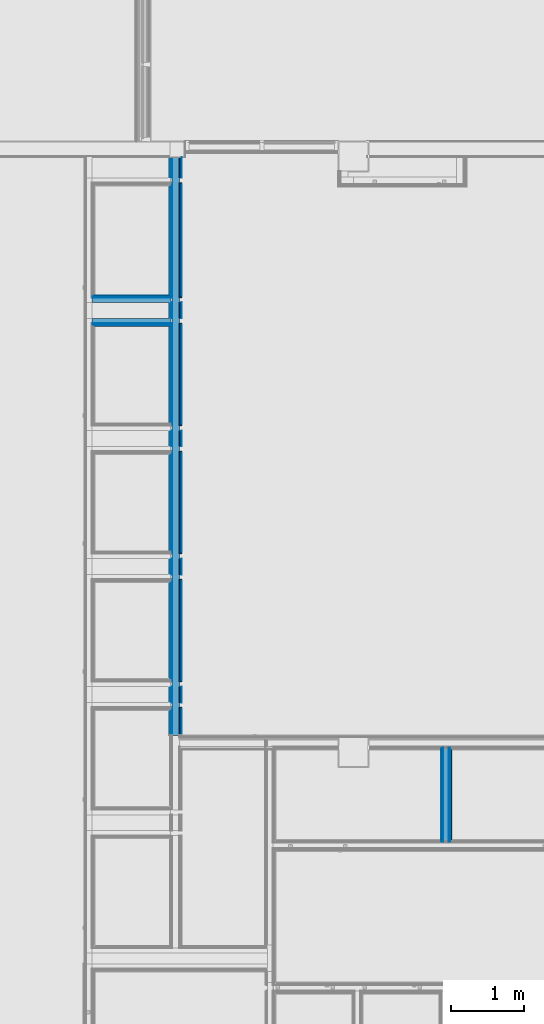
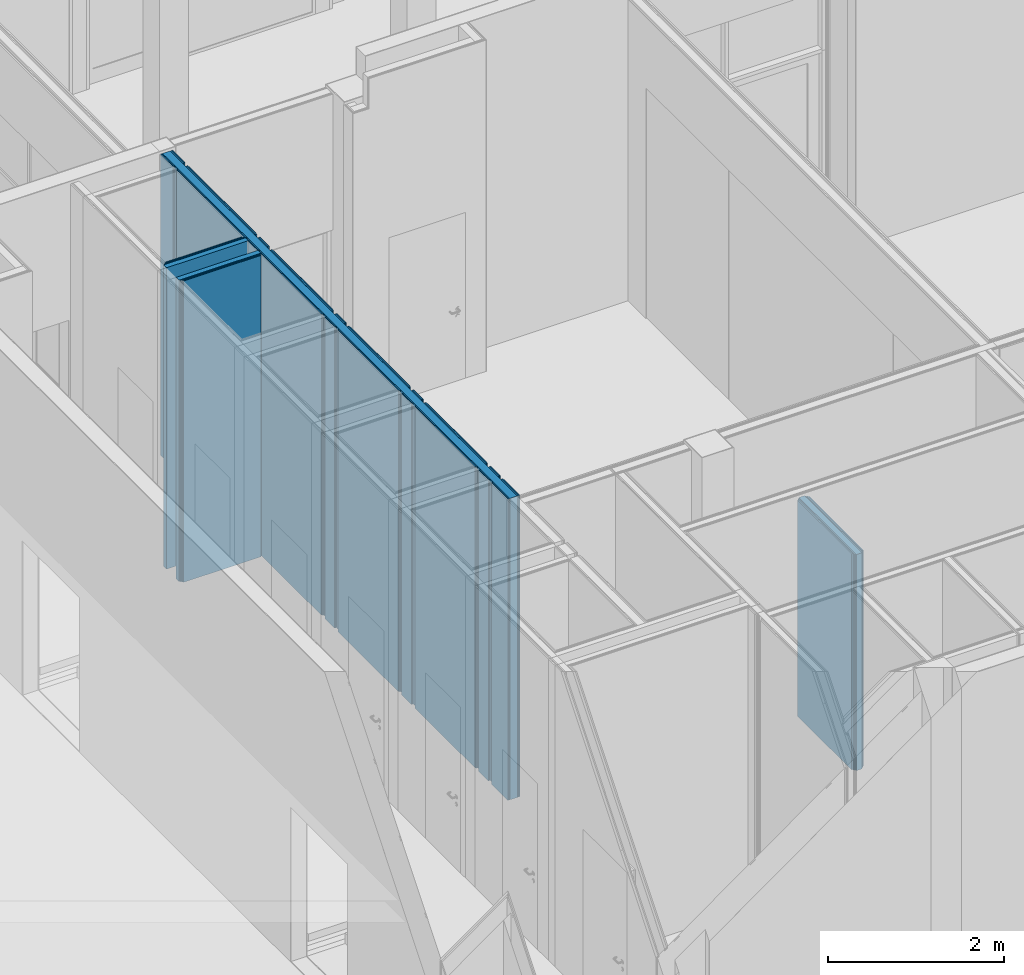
# One storey, part 207 of 260: 21 building element parts, 4 elements without a shape of their own.
"""IFC2X3 building model written with IfcOpenShell, lengths in millimetres."""

from ifc_helpers import new_model, entity, si_unit, converted_unit, derived_unit, money_unit, direction, frame, origin_with_axes, place, context, subcontext, project, spatial, faceted_brep, material, type_object, element, aggregate, save


model = new_model("IFC2X3")

# Units and contexts
model_context = context("Model", 3, precision=0.01, world=origin_with_axes(), true_north=direction((0.0, 1.0)))
body_context = subcontext(model_context, "Body", "Model", "MODEL_VIEW")
ifc_project = project(units=[si_unit("LENGTHUNIT", "METRE", prefix="MILLI"), si_unit("AREAUNIT", "SQUARE_METRE"), si_unit("VOLUMEUNIT", "CUBIC_METRE"), converted_unit("PLANEANGLEUNIT", "DEGREE", entity("IfcPlaneAngleMeasure", 0.0174532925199), si_unit("PLANEANGLEUNIT", "RADIAN"), dimensions=[0, 0, 0, 0, 0, 0, 0]), money_unit("EUR"), converted_unit("TIMEUNIT", "Year", entity("IfcTimeMeasure", 31556926.0), si_unit("TIMEUNIT", "SECOND"), dimensions=[0, 0, 1, 0, 0, 0, 0]), si_unit("MASSUNIT", "GRAM", prefix="KILO"), si_unit("THERMODYNAMICTEMPERATUREUNIT", "DEGREE_CELSIUS"), si_unit("LUMINOUSINTENSITYUNIT", "LUMEN"), si_unit("ENERGYUNIT", "JOULE", prefix="MEGA"), derived_unit("THERMALCONDUCTANCEUNIT", [(si_unit("POWERUNIT", "WATT"), 1), (si_unit("LENGTHUNIT", "METRE"), -1), (si_unit("THERMODYNAMICTEMPERATUREUNIT", "KELVIN"), -1)]), derived_unit("SPECIFICHEATCAPACITYUNIT", [(si_unit("ENERGYUNIT", "JOULE"), 1), (si_unit("MASSUNIT", "GRAM", prefix="KILO"), -1), (si_unit("THERMODYNAMICTEMPERATUREUNIT", "KELVIN"), -1)]), derived_unit("MASSDENSITYUNIT", [(si_unit("MASSUNIT", "GRAM", prefix="KILO"), 1), (si_unit("VOLUMEUNIT", "CUBIC_METRE"), -1)])], contexts=[model_context])

# Site, building, storey
site_placement = place(None, origin_with_axes())
site = spatial("IfcSite", under=ifc_project, at=site_placement, Name="Kolde pst 67a", CompositionType="ELEMENT")
building_placement = place(site_placement, origin_with_axes())
building = spatial("IfcBuilding", under=site, at=building_placement, Name="Riigigümnaasium", CompositionType="ELEMENT")
storey_placement = place(building_placement, origin_with_axes())
storey = spatial("IfcBuildingStorey", under=building, at=storey_placement, Name="1. korrus", CompositionType="ELEMENT", Elevation=0.0)

# Wall, building element parts
wall_type_1 = type_object("IfcWallType", Name="SS-MK-66/3_šahti sein+plaat 106", PredefinedType="NOTDEFINED")
wall_1_placement = place(storey_placement, frame((67450.8866155, 22349.9999727, 0.0), z_axis=(0.0, 0.0, 1.0), x_axis=(-1.0, 0.0, 0.0)))
wall_1 = element("IfcWall", 1, at=wall_1_placement, inside=storey, type_object=wall_type_1, Name="Sisesein")
ifc_material_1 = material(Name="_KARKASS - metallkarkass CW 75/50, mineraalvill karkassi vahel")
building_element_part_1_placement = place(wall_1_placement, origin_with_axes())
building_element_part_1 = element("IfcBuildingElementPart", 2, at=building_element_part_1_placement, material=ifc_material_1, Name="_KARKASS - metallkarkass CW 75/50, mineraalvill karkassi vahel", context=body_context, shape_type="Brep", body=[
    faceted_brep([(1074.99908005, 40.0, 4185.0), (0.0, 40.0, 4185.0), (0.0, 40.0, 0.0), (1074.99908005, 40.0, 0.0), (0.0, 106.0, 4185.0), (1074.99908005, 106.0, 4185.0), (0.0, 106.0, 0.0), (1074.99908005, 106.0, 0.0)], [[[0, 1, 2, 3]], [[4, 1, 0, 5]], [[1, 4, 6, 2]], [[7, 3, 2, 6]], [[5, 0, 3, 7]], [[4, 5, 7, 6]]]),
])
ifc_material_2 = material(Name="_PLAATMATERJAL - kipsplaat veekindel")
building_element_part_2_placement = place(wall_1_placement, origin_with_axes())
building_element_part_2 = element("IfcBuildingElementPart", 3, at=building_element_part_2_placement, material=ifc_material_2, Name="_PLAATMATERJAL - kipsplaat veekindel", context=body_context, shape_type="Brep", body=[
    faceted_brep([(1062.49908005, 27.5, 4185.0), (0.0, 27.5, 4185.0), (0.0, 27.5, 0.0), (1062.49908005, 27.5, 0.0), (0.0, 40.0, 4185.0), (1062.49908005, 40.0, 4185.0), (0.0, 40.0, 0.0), (1062.49908005, 40.0, 0.0)], [[[0, 1, 2, 3]], [[4, 1, 0, 5]], [[1, 4, 6, 2]], [[7, 3, 2, 6]], [[5, 0, 3, 7]], [[4, 5, 7, 6]]]),
])
building_element_part_3_placement = place(wall_1_placement, origin_with_axes())
building_element_part_3 = element("IfcBuildingElementPart", 4, at=building_element_part_3_placement, material=ifc_material_2, Name="_PLAATMATERJAL - kipsplaat veekindel", context=body_context, shape_type="Brep", body=[
    faceted_brep([(1049.99908005, 15.0, 4185.0), (4.9998261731, 15.0, 4185.0), (4.9998261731, 15.0, 0.0), (1049.99908005, 15.0, 0.0), (4.99983366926, 27.5, 4185.0), (1049.99908005, 27.5, 4185.0), (4.99983366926, 27.5, 0.0), (1049.99908005, 27.5, 0.0)], [[[0, 1, 2, 3]], [[4, 1, 0, 5]], [[1, 4, 6, 2]], [[3, 2, 6, 7]], [[5, 0, 3, 7]], [[4, 5, 7, 6]]]),
])
ifc_material_3 = material(Name="_VIIMISTLUSKIHT - viimistlus vastavalt SA osale")
building_element_part_4_placement = place(wall_1_placement, origin_with_axes())
building_element_part_4 = element("IfcBuildingElementPart", 5, at=building_element_part_4_placement, material=ifc_material_3, Name="_VIIMISTLUSKIHT - viimistlus vastavalt SA osale", context=body_context, shape_type="Brep", body=[
    faceted_brep([(1034.99908005, 0.0, 4185.0), (19.9998171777, 0.0, 4185.0), (19.9998171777, 0.0, 0.0), (1034.99908005, 0.0, 0.0), (19.9998261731, 15.0, 4185.0), (1034.99908005, 15.0, 4185.0), (19.9998261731, 15.0, 0.0), (1034.99908005, 15.0, 0.0)], [[[0, 1, 2, 3]], [[4, 1, 0, 5]], [[1, 4, 6, 2]], [[3, 2, 6, 7]], [[5, 0, 3, 7]], [[4, 5, 7, 6]]]),
])
aggregate(wall_1, [building_element_part_1, building_element_part_2, building_element_part_3, building_element_part_4])

wall_2_placement = place(storey_placement, frame((67450.8863577, 21920.0776322, 0.0), z_axis=(0.0, 0.0, 1.0), x_axis=(-1.0, -7.27337345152e-07, 0.0)))
wall_2 = element("IfcWall", 6, at=wall_2_placement, inside=storey, type_object=wall_type_1, Name="Varisein")
building_element_part_5_placement = place(wall_2_placement, origin_with_axes())
building_element_part_5 = element("IfcBuildingElementPart", 7, at=building_element_part_5_placement, material=ifc_material_3, Name="_VIIMISTLUSKIHT - viimistlus vastavalt SA osale", context=body_context, shape_type="Brep", body=[
    faceted_brep([(1034.99881132, -15.0, 4185.0), (19.9997972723, -15.0, 4185.0), (19.9997972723, -15.0, 0.0), (1034.99881132, -15.0, 0.0), (19.9998171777, 0.0, 4185.0), (1034.99882223, 0.0, 4185.0), (19.9998171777, 0.0, 0.0), (1034.99882223, 0.0, 0.0)], [[[0, 1, 2, 3]], [[4, 1, 0, 5]], [[1, 4, 6, 2]], [[3, 2, 6, 7]], [[5, 0, 3, 7]], [[4, 5, 7, 6]]]),
])
building_element_part_6_placement = place(wall_2_placement, origin_with_axes())
building_element_part_6 = element("IfcBuildingElementPart", 8, at=building_element_part_6_placement, material=ifc_material_2, Name="_PLAATMATERJAL - kipsplaat veekindel", context=body_context, shape_type="Brep", body=[
    faceted_brep([(1049.99880223, -27.5, 4185.0), (4.99978068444, -27.5, 4185.0), (4.99978068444, -27.5, 0.0), (1049.99880223, -27.5, 0.0), (4.9997972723, -15.0, 4185.0), (1049.99881132, -15.0, 4185.0), (4.9997972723, -15.0, 0.0), (1049.99881132, -15.0, 0.0)], [[[0, 1, 2, 3]], [[4, 1, 0, 5]], [[1, 4, 6, 2]], [[3, 2, 6, 7]], [[5, 0, 3, 7]], [[4, 5, 7, 6]]]),
])
building_element_part_7_placement = place(wall_2_placement, origin_with_axes())
building_element_part_7 = element("IfcBuildingElementPart", 9, at=building_element_part_7_placement, material=ifc_material_2, Name="_PLAATMATERJAL - kipsplaat veekindel", context=body_context, shape_type="Brep", body=[
    faceted_brep([(1062.49879313, -40.0, 4185.0), (0.0, -40.0, 4185.0), (0.0, -40.0, 0.0), (1062.49879313, -40.0, 0.0), (0.0, -27.5, 4185.0), (1062.49880223, -27.5, 4185.0), (0.0, -27.5, 0.0), (1062.49880223, -27.5, 0.0)], [[[0, 1, 2, 3]], [[4, 1, 0, 5]], [[1, 4, 6, 2]], [[7, 3, 2, 6]], [[5, 0, 3, 7]], [[4, 5, 7, 6]]]),
])
building_element_part_8_placement = place(wall_2_placement, origin_with_axes())
building_element_part_8 = element("IfcBuildingElementPart", 10, at=building_element_part_8_placement, material=ifc_material_1, Name="_KARKASS - metallkarkass CW 75/50, mineraalvill karkassi vahel", context=body_context, shape_type="Brep", body=[
    faceted_brep([(1074.99874513, -106.0, 4185.0), (0.0, -106.0, 4185.0), (0.0, -106.0, 0.0), (1074.99874513, -106.0, 0.0), (0.0, -40.0, 4185.0), (1074.99879313, -40.0, 4185.0), (0.0, -40.0, 0.0), (1074.99879313, -40.0, 0.0)], [[[0, 1, 2, 3]], [[4, 1, 0, 5]], [[1, 4, 6, 2]], [[7, 3, 2, 6]], [[5, 0, 3, 7]], [[4, 5, 7, 6]]]),
])
aggregate(wall_2, [building_element_part_5, building_element_part_6, building_element_part_7, building_element_part_8])

wall_type_2 = type_object("IfcWallType", Name="SS-MK-7,5/1_plaaditud 155", PredefinedType="NOTDEFINED")
wall_3_placement = place(storey_placement, frame((71289.9996248, 16259.0098036, 0.0), z_axis=(0.0, 0.0, 1.0), x_axis=(-4.76274528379e-07, -1.0, 0.0)))
wall_3 = element("IfcWall", 11, at=wall_3_placement, inside=storey, type_object=wall_type_2, Name="Sisesein")
building_element_part_9_placement = place(wall_3_placement, origin_with_axes())
building_element_part_9 = element("IfcBuildingElementPart", 12, at=building_element_part_9_placement, material=ifc_material_3, Name="_VIIMISTLUSKIHT - viimistlus vastavalt SA osale", context=body_context, shape_type="Brep", body=[
    faceted_brep([(1359.00163611, 0.0, 3000.0), (129.0013794, 0.0, 3000.0), (129.001375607, -15.0, 3000.0), (1359.00163611, -15.0, 3000.0), (1359.00163611, 0.0, 0.0), (129.0013794, 0.0, 0.0), (129.001375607, -15.0, 0.0), (1359.00163611, -15.0, 0.0)], [[[0, 1, 2, 3]], [[4, 5, 1, 0]], [[2, 1, 5, 6]], [[3, 2, 6, 7]], [[3, 7, 4, 0]], [[7, 6, 5, 4]]]),
])
building_element_part_10_placement = place(wall_3_placement, origin_with_axes())
building_element_part_10 = element("IfcBuildingElementPart", 13, at=building_element_part_10_placement, material=ifc_material_2, Name="_PLAATMATERJAL - kipsplaat veekindel", context=body_context, shape_type="Brep", body=[
    faceted_brep([(1374.00163611, -15.0, 3000.0), (114.001375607, -15.0, 3000.0), (114.001372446, -27.5, 3000.0), (1374.00163611, -27.5, 3000.0), (1374.00163611, -15.0, 0.0), (114.001375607, -15.0, 0.0), (114.001372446, -27.5, 0.0), (1374.00163611, -27.5, 0.0)], [[[0, 1, 2, 3]], [[4, 5, 1, 0]], [[2, 1, 5, 6]], [[3, 2, 6, 7]], [[3, 7, 4, 0]], [[7, 6, 5, 4]]]),
])
building_element_part_11_placement = place(wall_3_placement, origin_with_axes())
building_element_part_11 = element("IfcBuildingElementPart", 14, at=building_element_part_11_placement, material=ifc_material_2, Name="_PLAATMATERJAL - kipsplaat veekindel", context=body_context, shape_type="Brep", body=[
    faceted_brep([(1386.50163611, -27.5, 3000.0), (101.501372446, -27.5, 3000.0), (101.501369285, -40.0, 3000.0), (1386.50163611, -40.0, 3000.0), (1386.50163611, -27.5, 0.0), (101.501372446, -27.5, 0.0), (101.501369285, -40.0, 0.0), (1386.50163611, -40.0, 0.0)], [[[0, 1, 2, 3]], [[4, 5, 1, 0]], [[2, 1, 5, 6]], [[3, 2, 6, 7]], [[3, 7, 4, 0]], [[7, 6, 5, 4]]]),
])
building_element_part_12_placement = place(wall_3_placement, origin_with_axes())
building_element_part_12 = element("IfcBuildingElementPart", 15, at=building_element_part_12_placement, material=ifc_material_1, Name="_KARKASS - metallkarkass CW 75/50, mineraalvill karkassi vahel", context=body_context, shape_type="Brep", body=[
    faceted_brep([(1399.00163611, -40.0, 3000.0), (89.0013692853, -40.0, 3000.0), (89.0013503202, -115.0, 3000.0), (1399.00163611, -115.0, 3000.0), (1399.00163611, -40.0, 0.0), (89.0013692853, -40.0, 0.0), (89.0013503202, -115.0, 0.0), (1399.00163611, -115.0, 0.0)], [[[0, 1, 2, 3]], [[4, 5, 1, 0]], [[2, 1, 5, 6]], [[3, 2, 6, 7]], [[3, 7, 4, 0]], [[7, 6, 5, 4]]]),
])
building_element_part_13_placement = place(wall_3_placement, origin_with_axes())
building_element_part_13 = element("IfcBuildingElementPart", 16, at=building_element_part_13_placement, material=ifc_material_2, Name="_PLAATMATERJAL - kipsplaat veekindel", context=body_context, shape_type="Brep", body=[
    faceted_brep([(1386.50163611, -115.0, 3000.0), (101.50135032, -115.0, 3000.0), (101.501347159, -127.5, 3000.0), (1386.50163611, -127.5, 3000.0), (1386.50163611, -115.0, 0.0), (101.50135032, -115.0, 0.0), (101.501347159, -127.5, 0.0), (1386.50163611, -127.5, 0.0)], [[[0, 1, 2, 3]], [[4, 5, 1, 0]], [[2, 1, 5, 6]], [[3, 2, 6, 7]], [[3, 7, 4, 0]], [[7, 6, 5, 4]]]),
])
building_element_part_14_placement = place(wall_3_placement, origin_with_axes())
building_element_part_14 = element("IfcBuildingElementPart", 17, at=building_element_part_14_placement, material=ifc_material_2, Name="_PLAATMATERJAL - kipsplaat veekindel", context=body_context, shape_type="Brep", body=[
    faceted_brep([(1374.00163611, -127.5, 3000.0), (114.001347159, -127.5, 3000.0), (114.001343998, -140.0, 3000.0), (1374.00163611, -140.0, 3000.0), (1374.00163611, -127.5, 0.0), (114.001347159, -127.5, 0.0), (114.001343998, -140.0, 0.0), (1374.00163611, -140.0, 0.0)], [[[0, 1, 2, 3]], [[4, 5, 1, 0]], [[2, 1, 5, 6]], [[3, 2, 6, 7]], [[3, 7, 4, 0]], [[7, 6, 5, 4]]]),
])
building_element_part_15_placement = place(wall_3_placement, origin_with_axes())
building_element_part_15 = element("IfcBuildingElementPart", 18, at=building_element_part_15_placement, material=ifc_material_3, Name="_VIIMISTLUSKIHT - viimistlus vastavalt SA osale", context=body_context, shape_type="Brep", body=[
    faceted_brep([(1359.00163611, -140.0, 3000.0), (129.001343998, -140.0, 3000.0), (129.001340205, -155.0, 3000.0), (1359.00163611, -155.0, 3000.0), (1359.00163611, -140.0, 0.0), (129.001343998, -140.0, 0.0), (129.001340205, -155.0, 0.0), (1359.00163611, -155.0, 0.0)], [[[0, 1, 2, 3]], [[4, 5, 1, 0]], [[2, 1, 5, 6]], [[3, 2, 6, 7]], [[3, 7, 4, 0]], [[7, 6, 5, 4]]]),
])
aggregate(wall_3, [building_element_part_9, building_element_part_10, building_element_part_11, building_element_part_12, building_element_part_13, building_element_part_14, building_element_part_15])

wall_type_3 = type_object("IfcWallType", Name="SS-PK-10/5_vill100+plaat+värv 175", PredefinedType="NOTDEFINED")
wall_4_placement = place(storey_placement, frame((67430.8831884, 16330.333427, 0.0), z_axis=(0.0, 0.0, 1.0), x_axis=(5.99692287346e-07, 1.0, 0.0)))
wall_4 = element("IfcWall", 19, at=wall_4_placement, inside=storey, type_object=wall_type_3, Name="Sisesein")
building_element_part_16_placement = place(wall_4_placement, origin_with_axes())
building_element_part_16 = element("IfcBuildingElementPart", 20, at=building_element_part_16_placement, material=ifc_material_2, Name="_PLAATMATERJAL - kipsplaat veekindel", context=body_context, shape_type="Brep", body=[
    faceted_brep([(367.244209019, -15.0, 4185.0), (367.244225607, -27.5, 4185.0), (367.244225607, -27.5, 0.0), (367.244209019, -15.0, 0.0), (0.0, -27.5, 4185.0), (0.0, -15.0, 4185.0), (0.0, -27.5, 0.0), (0.0, -15.0, 0.0)], [[[0, 1, 2, 3]], [[4, 1, 0, 5]], [[1, 4, 6, 2]], [[3, 2, 6, 7]], [[5, 0, 3, 7]], [[4, 5, 7, 6]]]),
    faceted_brep([(663.666553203, -15.0, 4185.0), (663.666560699, -27.5, 4185.0), (663.666560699, -27.5, 0.0), (663.666553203, -15.0, 0.0), (445.744225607, -27.5, 4185.0), (445.744209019, -15.0, 4185.0), (445.744225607, -27.5, 0.0), (445.744209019, -15.0, 0.0)], [[[0, 1, 2, 3]], [[4, 1, 0, 5]], [[1, 4, 6, 2]], [[3, 2, 6, 7]], [[5, 0, 3, 7]], [[4, 5, 7, 6]]]),
    faceted_brep([(2117.24420904, -15.0, 4185.0), (2117.24422563, -27.5, 4185.0), (2117.24422563, -27.5, 0.0), (2117.24420904, -15.0, 0.0), (742.166560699, -27.5, 4185.0), (742.166553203, -15.0, 4185.0), (742.166560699, -27.5, 0.0), (742.166553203, -15.0, 0.0)], [[[0, 1, 2, 3]], [[4, 1, 0, 5]], [[1, 4, 6, 2]], [[3, 2, 6, 7]], [[5, 0, 3, 7]], [[4, 5, 7, 6]]]),
    faceted_brep([(2413.66655323, -15.0, 4185.0), (2413.66656072, -27.5, 4185.0), (2413.66656072, -27.5, 0.0), (2413.66655323, -15.0, 0.0), (2195.74422563, -27.5, 4185.0), (2195.74420904, -15.0, 4185.0), (2195.74422563, -27.5, 0.0), (2195.74420904, -15.0, 0.0)], [[[0, 1, 2, 3]], [[4, 1, 0, 5]], [[1, 4, 6, 2]], [[3, 2, 6, 7]], [[5, 0, 3, 7]], [[4, 5, 7, 6]]]),
    faceted_brep([(3867.24420906, -15.0, 4185.0), (3867.24422565, -27.5, 4185.0), (3867.24422565, -27.5, 0.0), (3867.24420906, -15.0, 0.0), (2492.16656072, -27.5, 4185.0), (2492.16655323, -15.0, 4185.0), (2492.16656072, -27.5, 0.0), (2492.16655323, -15.0, 0.0)], [[[0, 1, 2, 3]], [[4, 1, 0, 5]], [[1, 4, 6, 2]], [[3, 2, 6, 7]], [[5, 0, 3, 7]], [[4, 5, 7, 6]]]),
    faceted_brep([(4163.6665533, -15.0, 4185.0), (4163.66656082, -27.5, 4185.0), (4163.66656082, -27.5, 0.0), (4163.6665533, -15.0, 0.0), (3945.74422565, -27.5, 4185.0), (3945.74420906, -15.0, 4185.0), (3945.74422565, -27.5, 0.0), (3945.74420906, -15.0, 0.0)], [[[0, 1, 2, 3]], [[4, 1, 0, 5]], [[1, 4, 6, 2]], [[3, 2, 6, 7]], [[5, 0, 3, 7]], [[4, 5, 7, 6]]]),
    faceted_brep([(5617.24421055, -15.0, 4185.0), (5617.24422714, -27.5, 4185.0), (5617.24422714, -27.5, 0.0), (5617.24421055, -15.0, 0.0), (4242.16656082, -27.5, 4185.0), (4242.1665533, -15.0, 4185.0), (4242.16656082, -27.5, 0.0), (4242.1665533, -15.0, 0.0)], [[[0, 1, 2, 3]], [[4, 1, 0, 5]], [[1, 4, 6, 2]], [[3, 2, 6, 7]], [[5, 0, 3, 7]], [[4, 5, 7, 6]]]),
    faceted_brep([(5913.66655474, -15.0, 4185.0), (5913.66656223, -27.5, 4185.0), (5913.66656223, -27.5, 0.0), (5913.66655474, -15.0, 0.0), (5695.74422714, -27.5, 4185.0), (5695.74421055, -15.0, 4185.0), (5695.74422714, -27.5, 0.0), (5695.74421055, -15.0, 0.0)], [[[0, 1, 2, 3]], [[4, 1, 0, 5]], [[1, 4, 6, 2]], [[3, 2, 6, 7]], [[5, 0, 3, 7]], [[4, 5, 7, 6]]]),
    faceted_brep([(7537.45231574, -15.0, 4185.0), (7537.45233233, -27.5, 4185.0), (7537.45233233, -27.5, 0.0), (7537.45231574, -15.0, 0.0), (5992.16656223, -27.5, 4185.0), (5992.16655474, -15.0, 4185.0), (5992.16656223, -27.5, 0.0), (5992.16655474, -15.0, 0.0)], [[[0, 1, 2, 3]], [[4, 1, 0, 5]], [[1, 4, 6, 2]], [[3, 2, 6, 7]], [[5, 0, 3, 7]], [[4, 5, 7, 6]]]),
    faceted_brep([(7899.6667287, -15.0, 4185.0), (7899.6667287, -27.5, 4185.0), (7899.6667287, -27.5, 0.0), (7899.6667287, -15.0, 0.0), (7615.95233233, -27.5, 4185.0), (7615.95231574, -15.0, 4185.0), (7615.95233233, -27.5, 0.0), (7615.95231574, -15.0, 0.0)], [[[0, 1, 2, 3]], [[4, 1, 0, 5]], [[1, 4, 6, 2]], [[7, 3, 2, 6]], [[5, 0, 3, 7]], [[4, 5, 7, 6]]]),
])
building_element_part_17_placement = place(wall_4_placement, origin_with_axes())
building_element_part_17 = element("IfcBuildingElementPart", 21, at=building_element_part_17_placement, material=ifc_material_2, Name="_PLAATMATERJAL - kipsplaat veekindel", context=body_context, shape_type="Brep", body=[
    faceted_brep([(379.744225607, -27.5, 4185.0), (379.744242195, -40.0, 4185.0), (379.744242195, -40.0, 0.0), (379.744225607, -27.5, 0.0), (0.0, -40.0, 4185.0), (0.0, -27.5, 4185.0), (0.0, -40.0, 0.0), (0.0, -27.5, 0.0)], [[[0, 1, 2, 3]], [[4, 1, 0, 5]], [[1, 4, 6, 2]], [[3, 2, 6, 7]], [[5, 0, 3, 7]], [[4, 5, 7, 6]]]),
    faceted_brep([(663.666560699, -27.5, 4185.0), (663.666568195, -40.0, 4185.0), (663.666568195, -40.0, 0.0), (663.666560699, -27.5, 0.0), (445.744242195, -40.0, 4185.0), (445.744225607, -27.5, 4185.0), (445.744242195, -40.0, 0.0), (445.744225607, -27.5, 0.0)], [[[0, 1, 2, 3]], [[4, 1, 0, 5]], [[1, 4, 6, 2]], [[3, 2, 6, 7]], [[5, 0, 3, 7]], [[4, 5, 7, 6]]]),
    faceted_brep([(2129.74422563, -27.5, 4185.0), (2129.74424222, -40.0, 4185.0), (2129.74424222, -40.0, 0.0), (2129.74422563, -27.5, 0.0), (729.666568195, -40.0, 4185.0), (729.666560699, -27.5, 4185.0), (729.666568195, -40.0, 0.0), (729.666560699, -27.5, 0.0)], [[[0, 1, 2, 3]], [[4, 1, 0, 5]], [[1, 4, 6, 2]], [[3, 2, 6, 7]], [[5, 0, 3, 7]], [[4, 5, 7, 6]]]),
    faceted_brep([(2413.66656072, -27.5, 4185.0), (2413.66656822, -40.0, 4185.0), (2413.66656822, -40.0, 0.0), (2413.66656072, -27.5, 0.0), (2195.74424222, -40.0, 4185.0), (2195.74422563, -27.5, 4185.0), (2195.74424222, -40.0, 0.0), (2195.74422563, -27.5, 0.0)], [[[0, 1, 2, 3]], [[4, 1, 0, 5]], [[1, 4, 6, 2]], [[3, 2, 6, 7]], [[5, 0, 3, 7]], [[4, 5, 7, 6]]]),
    faceted_brep([(3879.74422565, -27.5, 4185.0), (3879.74424224, -40.0, 4185.0), (3879.74424224, -40.0, 0.0), (3879.74422565, -27.5, 0.0), (2479.66656822, -40.0, 4185.0), (2479.66656072, -27.5, 4185.0), (2479.66656822, -40.0, 0.0), (2479.66656072, -27.5, 0.0)], [[[0, 1, 2, 3]], [[4, 1, 0, 5]], [[1, 4, 6, 2]], [[3, 2, 6, 7]], [[5, 0, 3, 7]], [[4, 5, 7, 6]]]),
    faceted_brep([(4163.66656082, -27.5, 4185.0), (4163.66656833, -40.0, 4185.0), (4163.66656833, -40.0, 0.0), (4163.66656082, -27.5, 0.0), (3945.74424224, -40.0, 4185.0), (3945.74422565, -27.5, 4185.0), (3945.74424224, -40.0, 0.0), (3945.74422565, -27.5, 0.0)], [[[0, 1, 2, 3]], [[4, 1, 0, 5]], [[1, 4, 6, 2]], [[3, 2, 6, 7]], [[5, 0, 3, 7]], [[4, 5, 7, 6]]]),
    faceted_brep([(5629.74422714, -27.5, 4185.0), (5629.74424373, -40.0, 4185.0), (5629.74424373, -40.0, 0.0), (5629.74422714, -27.5, 0.0), (4229.66656833, -40.0, 4185.0), (4229.66656082, -27.5, 4185.0), (4229.66656833, -40.0, 0.0), (4229.66656082, -27.5, 0.0)], [[[0, 1, 2, 3]], [[4, 1, 0, 5]], [[1, 4, 6, 2]], [[3, 2, 6, 7]], [[5, 0, 3, 7]], [[4, 5, 7, 6]]]),
    faceted_brep([(5913.66656223, -27.5, 4185.0), (5913.66656973, -40.0, 4185.0), (5913.66656973, -40.0, 0.0), (5913.66656223, -27.5, 0.0), (5695.74424373, -40.0, 4185.0), (5695.74422714, -27.5, 4185.0), (5695.74424373, -40.0, 0.0), (5695.74422714, -27.5, 0.0)], [[[0, 1, 2, 3]], [[4, 1, 0, 5]], [[1, 4, 6, 2]], [[3, 2, 6, 7]], [[5, 0, 3, 7]], [[4, 5, 7, 6]]]),
    faceted_brep([(7549.95233233, -27.5, 4185.0), (7549.95234891, -40.0, 4185.0), (7549.95234891, -40.0, 0.0), (7549.95233233, -27.5, 0.0), (5979.66656973, -40.0, 4185.0), (5979.66656223, -27.5, 4185.0), (5979.66656973, -40.0, 0.0), (5979.66656223, -27.5, 0.0)], [[[0, 1, 2, 3]], [[4, 1, 0, 5]], [[1, 4, 6, 2]], [[3, 2, 6, 7]], [[5, 0, 3, 7]], [[4, 5, 7, 6]]]),
    faceted_brep([(7899.6667287, -27.5, 4185.0), (7899.6667287, -40.0, 4185.0), (7899.6667287, -40.0, 0.0), (7899.6667287, -27.5, 0.0), (7615.95234891, -40.0, 4185.0), (7615.95233233, -27.5, 4185.0), (7615.95234891, -40.0, 0.0), (7615.95233233, -27.5, 0.0)], [[[0, 1, 2, 3]], [[4, 1, 0, 5]], [[1, 4, 6, 2]], [[7, 3, 2, 6]], [[5, 0, 3, 7]], [[4, 5, 7, 6]]]),
])
ifc_material_4 = material(Name="_KARKASS - puitpruss 100x50mm vertikaalne, samm 600mm, vahel mineraalvill, helineeldetegur αw = 1.0, ISOVER ACOUSTIC 100mm või samaväärne")
building_element_part_18_placement = place(wall_4_placement, origin_with_axes())
building_element_part_18 = element("IfcBuildingElementPart", 22, at=building_element_part_18_placement, material=ifc_material_4, Name="_KARKASS - puitpruss 100x50mm vertikaalne, samm 600mm, vahel mineraalvill, helineeldetegur αw = 1.0, ISOVER ACOUSTIC 100mm või samaväärne", context=body_context, shape_type="Brep", body=[
    faceted_brep([(7899.6667287, -40.0, 4185.0), (7899.6667287, -140.0, 4185.0), (7899.6667287, -140.0, 0.0), (7899.6667287, -40.0, 0.0), (0.0, -140.0, 4185.0), (0.0, -40.0, 4185.0), (0.0, -140.0, 0.0), (0.0, -40.0, 0.0)], [[[0, 1, 2, 3]], [[4, 1, 0, 5]], [[1, 4, 6, 2]], [[7, 3, 2, 6]], [[5, 0, 3, 7]], [[4, 5, 7, 6]]]),
])
ifc_material_5 = material(Name="_PLAATMATERJAL - tuletõkkekipsplaat, Knauf Red GKF või samaväärne")
building_element_part_19_placement = place(wall_4_placement, origin_with_axes())
building_element_part_19 = element("IfcBuildingElementPart", 23, at=building_element_part_19_placement, material=ifc_material_5, Name="_PLAATMATERJAL - tuletõkkekipsplaat, Knauf Red GKF või samaväärne", context=body_context, shape_type="Brep", body=[
    faceted_brep([(379.744374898, -140.0, 4185.0), (379.744394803, -155.0, 4185.0), (379.744394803, -155.0, 0.0), (379.744374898, -140.0, 0.0), (0.0, -155.0, 4185.0), (0.0, -140.0, 4185.0), (0.0, -155.0, 0.0), (0.0, -140.0, 0.0)], [[[0, 1, 2, 3]], [[4, 1, 0, 5]], [[1, 4, 6, 2]], [[3, 2, 6, 7]], [[5, 0, 3, 7]], [[4, 5, 7, 6]]]),
    faceted_brep([(663.666628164, -140.0, 4185.0), (663.66663716, -155.0, 4185.0), (663.66663716, -155.0, 0.0), (663.666628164, -140.0, 0.0), (445.744394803, -155.0, 4185.0), (445.744374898, -140.0, 4185.0), (445.744394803, -155.0, 0.0), (445.744374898, -140.0, 0.0)], [[[0, 1, 2, 3]], [[4, 1, 0, 5]], [[1, 4, 6, 2]], [[3, 2, 6, 7]], [[5, 0, 3, 7]], [[4, 5, 7, 6]]]),
    faceted_brep([(2129.74437492, -140.0, 4185.0), (2129.74439483, -155.0, 4185.0), (2129.74439483, -155.0, 0.0), (2129.74437492, -140.0, 0.0), (729.66663716, -155.0, 4185.0), (729.666628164, -140.0, 4185.0), (729.66663716, -155.0, 0.0), (729.666628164, -140.0, 0.0)], [[[0, 1, 2, 3]], [[4, 1, 0, 5]], [[1, 4, 6, 2]], [[3, 2, 6, 7]], [[5, 0, 3, 7]], [[4, 5, 7, 6]]]),
    faceted_brep([(2413.66662819, -140.0, 4185.0), (2413.66663718, -155.0, 4185.0), (2413.66663718, -155.0, 0.0), (2413.66662819, -140.0, 0.0), (2195.74439483, -155.0, 4185.0), (2195.74437492, -140.0, 4185.0), (2195.74439483, -155.0, 0.0), (2195.74437492, -140.0, 0.0)], [[[0, 1, 2, 3]], [[4, 1, 0, 5]], [[1, 4, 6, 2]], [[3, 2, 6, 7]], [[5, 0, 3, 7]], [[4, 5, 7, 6]]]),
    faceted_brep([(3879.74437494, -140.0, 4185.0), (3879.74439485, -155.0, 4185.0), (3879.74439485, -155.0, 0.0), (3879.74437494, -140.0, 0.0), (2479.66663718, -155.0, 4185.0), (2479.66662819, -140.0, 4185.0), (2479.66663718, -155.0, 0.0), (2479.66662819, -140.0, 0.0)], [[[0, 1, 2, 3]], [[4, 1, 0, 5]], [[1, 4, 6, 2]], [[3, 2, 6, 7]], [[5, 0, 3, 7]], [[4, 5, 7, 6]]]),
    faceted_brep([(4163.66662845, -140.0, 4185.0), (4163.66663746, -155.0, 4185.0), (4163.66663746, -155.0, 0.0), (4163.66662845, -140.0, 0.0), (3945.74439485, -155.0, 4185.0), (3945.74437494, -140.0, 4185.0), (3945.74439485, -155.0, 0.0), (3945.74437494, -140.0, 0.0)], [[[0, 1, 2, 3]], [[4, 1, 0, 5]], [[1, 4, 6, 2]], [[3, 2, 6, 7]], [[5, 0, 3, 7]], [[4, 5, 7, 6]]]),
    faceted_brep([(5629.74437643, -140.0, 4185.0), (5629.74439634, -155.0, 4185.0), (5629.74439634, -155.0, 0.0), (5629.74437643, -140.0, 0.0), (4229.66663746, -155.0, 4185.0), (4229.66662845, -140.0, 4185.0), (4229.66663746, -155.0, 0.0), (4229.66662845, -140.0, 0.0)], [[[0, 1, 2, 3]], [[4, 1, 0, 5]], [[1, 4, 6, 2]], [[3, 2, 6, 7]], [[5, 0, 3, 7]], [[4, 5, 7, 6]]]),
    faceted_brep([(5913.6666297, -140.0, 4185.0), (5913.66663869, -155.0, 4185.0), (5913.66663869, -155.0, 0.0), (5913.6666297, -140.0, 0.0), (5695.74439634, -155.0, 4185.0), (5695.74437643, -140.0, 4185.0), (5695.74439634, -155.0, 0.0), (5695.74437643, -140.0, 0.0)], [[[0, 1, 2, 3]], [[4, 1, 0, 5]], [[1, 4, 6, 2]], [[3, 2, 6, 7]], [[5, 0, 3, 7]], [[4, 5, 7, 6]]]),
    faceted_brep([(7549.95248162, -140.0, 4185.0), (7549.95250152, -155.0, 4185.0), (7549.95250152, -155.0, 0.0), (7549.95248162, -140.0, 0.0), (5979.66663869, -155.0, 4185.0), (5979.6666297, -140.0, 4185.0), (5979.66663869, -155.0, 0.0), (5979.6666297, -140.0, 0.0)], [[[0, 1, 2, 3]], [[4, 1, 0, 5]], [[1, 4, 6, 2]], [[3, 2, 6, 7]], [[5, 0, 3, 7]], [[4, 5, 7, 6]]]),
    faceted_brep([(7899.6667287, -140.0, 4185.0), (7899.6667287, -155.0, 4185.0), (7899.6667287, -155.0, 0.0), (7899.6667287, -140.0, 0.0), (7615.95250152, -155.0, 4185.0), (7615.95248162, -140.0, 4185.0), (7615.95250152, -155.0, 0.0), (7615.95248162, -140.0, 0.0)], [[[0, 1, 2, 3]], [[4, 1, 0, 5]], [[1, 4, 6, 2]], [[7, 3, 2, 6]], [[5, 0, 3, 7]], [[4, 5, 7, 6]]]),
])
building_element_part_20_placement = place(wall_4_placement, origin_with_axes())
building_element_part_20 = element("IfcBuildingElementPart", 24, at=building_element_part_20_placement, material=ifc_material_5, Name="_PLAATMATERJAL - tuletõkkekipsplaat, Knauf Red GKF või samaväärne", context=body_context, shape_type="Brep", body=[
    faceted_brep([(379.744394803, -155.0, 4185.0), (379.744414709, -170.0, 4185.0), (379.744414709, -170.0, 0.0), (379.744394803, -155.0, 0.0), (0.0, -170.0, 4185.0), (0.0, -155.0, 4185.0), (0.0, -170.0, 0.0), (0.0, -155.0, 0.0)], [[[0, 1, 2, 3]], [[4, 1, 0, 5]], [[1, 4, 6, 2]], [[3, 2, 6, 7]], [[5, 0, 3, 7]], [[4, 5, 7, 6]]]),
    faceted_brep([(663.66663716, -155.0, 4185.0), (663.666646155, -170.0, 4185.0), (663.666646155, -170.0, 0.0), (663.66663716, -155.0, 0.0), (445.744414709, -170.0, 4185.0), (445.744394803, -155.0, 4185.0), (445.744414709, -170.0, 0.0), (445.744394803, -155.0, 0.0)], [[[0, 1, 2, 3]], [[4, 1, 0, 5]], [[1, 4, 6, 2]], [[3, 2, 6, 7]], [[5, 0, 3, 7]], [[4, 5, 7, 6]]]),
    faceted_brep([(2129.74439483, -155.0, 4185.0), (2129.74441473, -170.0, 4185.0), (2129.74441473, -170.0, 0.0), (2129.74439483, -155.0, 0.0), (729.666646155, -170.0, 4185.0), (729.66663716, -155.0, 4185.0), (729.666646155, -170.0, 0.0), (729.66663716, -155.0, 0.0)], [[[0, 1, 2, 3]], [[4, 1, 0, 5]], [[1, 4, 6, 2]], [[3, 2, 6, 7]], [[5, 0, 3, 7]], [[4, 5, 7, 6]]]),
    faceted_brep([(2413.66663718, -155.0, 4185.0), (2413.66664618, -170.0, 4185.0), (2413.66664618, -170.0, 0.0), (2413.66663718, -155.0, 0.0), (2195.74441473, -170.0, 4185.0), (2195.74439483, -155.0, 4185.0), (2195.74441473, -170.0, 0.0), (2195.74439483, -155.0, 0.0)], [[[0, 1, 2, 3]], [[4, 1, 0, 5]], [[1, 4, 6, 2]], [[3, 2, 6, 7]], [[5, 0, 3, 7]], [[4, 5, 7, 6]]]),
    faceted_brep([(3879.74439485, -155.0, 4185.0), (3879.74441475, -170.0, 4185.0), (3879.74441475, -170.0, 0.0), (3879.74439485, -155.0, 0.0), (2479.66664618, -170.0, 4185.0), (2479.66663718, -155.0, 4185.0), (2479.66664618, -170.0, 0.0), (2479.66663718, -155.0, 0.0)], [[[0, 1, 2, 3]], [[4, 1, 0, 5]], [[1, 4, 6, 2]], [[3, 2, 6, 7]], [[5, 0, 3, 7]], [[4, 5, 7, 6]]]),
    faceted_brep([(4163.66663746, -155.0, 4185.0), (4163.66664648, -170.0, 4185.0), (4163.66664648, -170.0, 0.0), (4163.66663746, -155.0, 0.0), (3945.74441475, -170.0, 4185.0), (3945.74439485, -155.0, 4185.0), (3945.74441475, -170.0, 0.0), (3945.74439485, -155.0, 0.0)], [[[0, 1, 2, 3]], [[4, 1, 0, 5]], [[1, 4, 6, 2]], [[3, 2, 6, 7]], [[5, 0, 3, 7]], [[4, 5, 7, 6]]]),
    faceted_brep([(5629.74439634, -155.0, 4185.0), (5629.74441624, -170.0, 4185.0), (5629.74441624, -170.0, 0.0), (5629.74439634, -155.0, 0.0), (4229.66664648, -170.0, 4185.0), (4229.66663746, -155.0, 4185.0), (4229.66664648, -170.0, 0.0), (4229.66663746, -155.0, 0.0)], [[[0, 1, 2, 3]], [[4, 1, 0, 5]], [[1, 4, 6, 2]], [[3, 2, 6, 7]], [[5, 0, 3, 7]], [[4, 5, 7, 6]]]),
    faceted_brep([(5913.66663869, -155.0, 4185.0), (5913.66664769, -170.0, 4185.0), (5913.66664769, -170.0, 0.0), (5913.66663869, -155.0, 0.0), (5695.74441624, -170.0, 4185.0), (5695.74439634, -155.0, 4185.0), (5695.74441624, -170.0, 0.0), (5695.74439634, -155.0, 0.0)], [[[0, 1, 2, 3]], [[4, 1, 0, 5]], [[1, 4, 6, 2]], [[3, 2, 6, 7]], [[5, 0, 3, 7]], [[4, 5, 7, 6]]]),
    faceted_brep([(7549.95250152, -155.0, 4185.0), (7549.95252143, -170.0, 4185.0), (7549.95252143, -170.0, 0.0), (7549.95250152, -155.0, 0.0), (5979.66664769, -170.0, 4185.0), (5979.66663869, -155.0, 4185.0), (5979.66664769, -170.0, 0.0), (5979.66663869, -155.0, 0.0)], [[[0, 1, 2, 3]], [[4, 1, 0, 5]], [[1, 4, 6, 2]], [[3, 2, 6, 7]], [[5, 0, 3, 7]], [[4, 5, 7, 6]]]),
    faceted_brep([(7899.6667287, -155.0, 4185.0), (7899.6667287, -170.0, 4185.0), (7899.6667287, -170.0, 0.0), (7899.6667287, -155.0, 0.0), (7615.95252143, -170.0, 4185.0), (7615.95250152, -155.0, 4185.0), (7615.95252143, -170.0, 0.0), (7615.95250152, -155.0, 0.0)], [[[0, 1, 2, 3]], [[4, 1, 0, 5]], [[1, 4, 6, 2]], [[7, 3, 2, 6]], [[5, 0, 3, 7]], [[4, 5, 7, 6]]]),
])
building_element_part_21_placement = place(wall_4_placement, origin_with_axes())
building_element_part_21 = element("IfcBuildingElementPart", 25, at=building_element_part_21_placement, material=ifc_material_3, Name="_VIIMISTLUSKIHT - viimistlus vastavalt SA osale", context=body_context, shape_type="Brep", body=[
    faceted_brep([(354.744414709, -170.0, 4185.0), (354.744421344, -175.0, 4185.0), (354.744421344, -175.0, 0.0), (354.744414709, -170.0, 0.0), (0.0, -175.0, 4185.0), (0.0, -170.0, 4185.0), (0.0, -175.0, 0.0), (0.0, -170.0, 0.0)], [[[0, 1, 2, 3]], [[4, 1, 0, 5]], [[1, 4, 6, 2]], [[3, 2, 6, 7]], [[5, 0, 3, 7]], [[4, 5, 7, 6]]]),
    faceted_brep([(663.666646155, -170.0, 4185.0), (663.666649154, -175.0, 4185.0), (663.666649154, -175.0, 0.0), (663.666646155, -170.0, 0.0), (445.744421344, -175.0, 4185.0), (445.744414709, -170.0, 4185.0), (445.744421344, -175.0, 0.0), (445.744414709, -170.0, 0.0)], [[[0, 1, 2, 3]], [[4, 1, 0, 5]], [[1, 4, 6, 2]], [[3, 2, 6, 7]], [[5, 0, 3, 7]], [[4, 5, 7, 6]]]),
    faceted_brep([(2104.74441473, -170.0, 4185.0), (2104.74442137, -175.0, 4185.0), (2104.74442137, -175.0, 0.0), (2104.74441473, -170.0, 0.0), (754.666649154, -175.0, 4185.0), (754.666646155, -170.0, 4185.0), (754.666649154, -175.0, 0.0), (754.666646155, -170.0, 0.0)], [[[0, 1, 2, 3]], [[4, 1, 0, 5]], [[1, 4, 6, 2]], [[3, 2, 6, 7]], [[5, 0, 3, 7]], [[4, 5, 7, 6]]]),
    faceted_brep([(2413.66664618, -170.0, 4185.0), (2413.66664918, -175.0, 4185.0), (2413.66664918, -175.0, 0.0), (2413.66664618, -170.0, 0.0), (2195.74442137, -175.0, 4185.0), (2195.74441473, -170.0, 4185.0), (2195.74442137, -175.0, 0.0), (2195.74441473, -170.0, 0.0)], [[[0, 1, 2, 3]], [[4, 1, 0, 5]], [[1, 4, 6, 2]], [[3, 2, 6, 7]], [[5, 0, 3, 7]], [[4, 5, 7, 6]]]),
    faceted_brep([(3854.74441475, -170.0, 4185.0), (3854.74442139, -175.0, 4185.0), (3854.74442139, -175.0, 0.0), (3854.74441475, -170.0, 0.0), (2504.66664918, -175.0, 4185.0), (2504.66664618, -170.0, 4185.0), (2504.66664918, -175.0, 0.0), (2504.66664618, -170.0, 0.0)], [[[0, 1, 2, 3]], [[4, 1, 0, 5]], [[1, 4, 6, 2]], [[3, 2, 6, 7]], [[5, 0, 3, 7]], [[4, 5, 7, 6]]]),
    faceted_brep([(4163.66664648, -170.0, 4185.0), (4163.66664949, -175.0, 4185.0), (4163.66664949, -175.0, 0.0), (4163.66664648, -170.0, 0.0), (3945.74442139, -175.0, 4185.0), (3945.74441475, -170.0, 4185.0), (3945.74442139, -175.0, 0.0), (3945.74441475, -170.0, 0.0)], [[[0, 1, 2, 3]], [[4, 1, 0, 5]], [[1, 4, 6, 2]], [[3, 2, 6, 7]], [[5, 0, 3, 7]], [[4, 5, 7, 6]]]),
    faceted_brep([(5604.74441624, -170.0, 4185.0), (5604.74442288, -175.0, 4185.0), (5604.74442288, -175.0, 0.0), (5604.74441624, -170.0, 0.0), (4254.66664949, -175.0, 4185.0), (4254.66664648, -170.0, 4185.0), (4254.66664949, -175.0, 0.0), (4254.66664648, -170.0, 0.0)], [[[0, 1, 2, 3]], [[4, 1, 0, 5]], [[1, 4, 6, 2]], [[3, 2, 6, 7]], [[5, 0, 3, 7]], [[4, 5, 7, 6]]]),
    faceted_brep([(5913.66664769, -170.0, 4185.0), (5913.66665069, -175.0, 4185.0), (5913.66665069, -175.0, 0.0), (5913.66664769, -170.0, 0.0), (5695.74442288, -175.0, 4185.0), (5695.74441624, -170.0, 4185.0), (5695.74442288, -175.0, 0.0), (5695.74441624, -170.0, 0.0)], [[[0, 1, 2, 3]], [[4, 1, 0, 5]], [[1, 4, 6, 2]], [[3, 2, 6, 7]], [[5, 0, 3, 7]], [[4, 5, 7, 6]]]),
    faceted_brep([(7524.95252143, -170.0, 4185.0), (7524.95252806, -175.0, 4185.0), (7524.95252806, -175.0, 0.0), (7524.95252143, -170.0, 0.0), (6004.66665069, -175.0, 4185.0), (6004.66664769, -170.0, 4185.0), (6004.66665069, -175.0, 0.0), (6004.66664769, -170.0, 0.0)], [[[0, 1, 2, 3]], [[4, 1, 0, 5]], [[1, 4, 6, 2]], [[3, 2, 6, 7]], [[5, 0, 3, 7]], [[4, 5, 7, 6]]]),
    faceted_brep([(7899.6667287, -170.0, 4185.0), (7899.6667287, -175.0, 4185.0), (7899.6667287, -175.0, 0.0), (7899.6667287, -170.0, 0.0), (7615.95252806, -175.0, 4185.0), (7615.95252143, -170.0, 4185.0), (7615.95252806, -175.0, 0.0), (7615.95252143, -170.0, 0.0)], [[[0, 1, 2, 3]], [[4, 1, 0, 5]], [[1, 4, 6, 2]], [[7, 3, 2, 6]], [[5, 0, 3, 7]], [[4, 5, 7, 6]]]),
])
aggregate(wall_4, [building_element_part_16, building_element_part_17, building_element_part_18, building_element_part_19, building_element_part_20, building_element_part_21])

save(model, "model.ifc")
